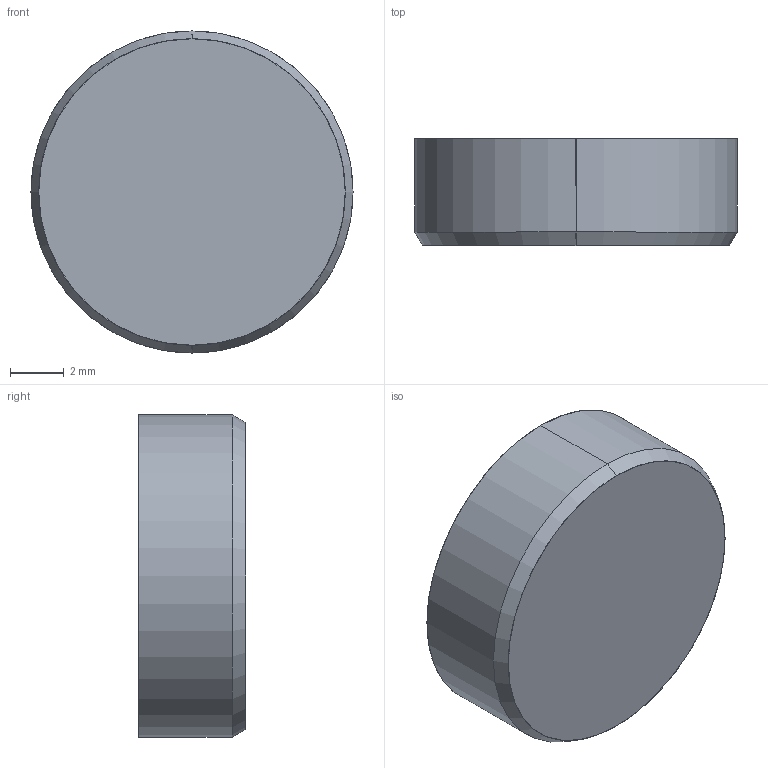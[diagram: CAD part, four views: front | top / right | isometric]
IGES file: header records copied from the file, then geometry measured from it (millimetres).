
Start section: SolidWorks IGES file using analytic representation for surfaces
Global section: file name: G:\Projetos\Matripeças\Datador ano\DAT04A.IGS; native system: SolidWorks 2013; preprocessor: SolidWorks 2013; author: cleonir; date: 130327.205843; units: millimetre
Bounding box: 12 x 4 x 12 mm (x, y, z)
Surface area: 395.2 mm2 (no closed solid volume)
Topology: 0 solids, 0 shells, 255 faces, 2404 edges, 2404 vertices
Faces by surface type: bspline 243, revolution 12
